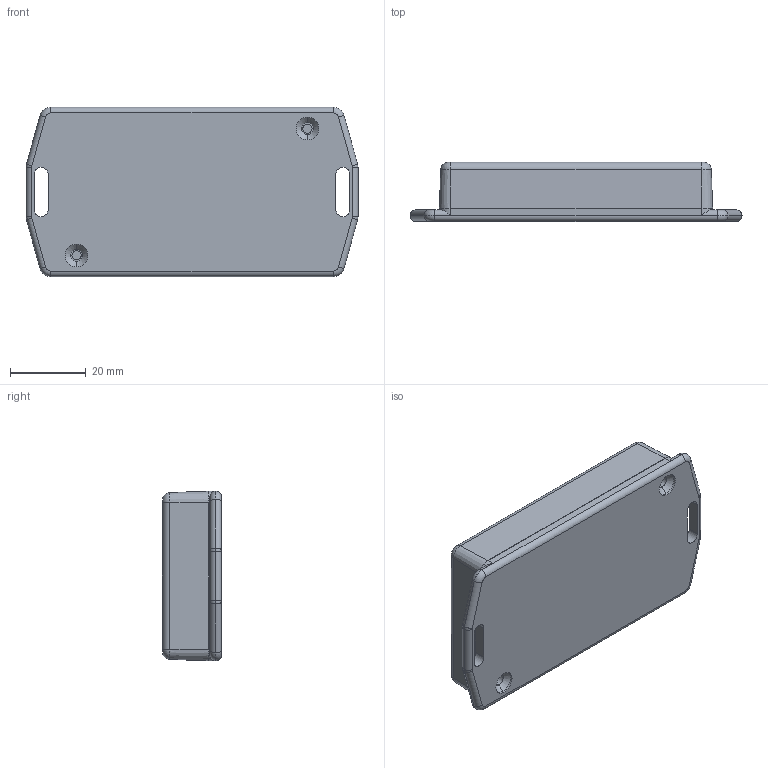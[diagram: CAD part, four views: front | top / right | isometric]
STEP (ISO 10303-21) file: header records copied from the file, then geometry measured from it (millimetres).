
FILE_DESCRIPTION (( 'STEP AP203' ), '1' );
FILE_NAME ('PM013.STEP', '2015-04-07T14:42:25', ( 'admin' ), ( 'Hewlett-Packard Company' ), 'SwSTEP 2.0', 'SolidWorks 2014', '' );
FILE_SCHEMA (( 'CONFIG_CONTROL_DESIGN' ));
Length unit declared in the file: millimetre
Products named in the file (3): PM013
Assembly tree (2 placements, depth 2):
  PM013
    PM013
    PM013
Bounding box: 87.7 x 15.6 x 44.8 mm (x, y, z)
Volume: 18460.1 mm3; surface area: 21646 mm2
Topology: 2 solids, 2 shells, 196 faces, 471 edges, 298 vertices
Faces by surface type: plane 75, cylinder 73, cone 28, torus 20
Entity records: 6098 total; most frequent: DIRECTION 1079, CARTESIAN_POINT 1034, ORIENTED_EDGE 942, EDGE_CURVE 471, AXIS2_PLACEMENT_3D 411, VERTEX_POINT 298, LINE 257, VECTOR 257
